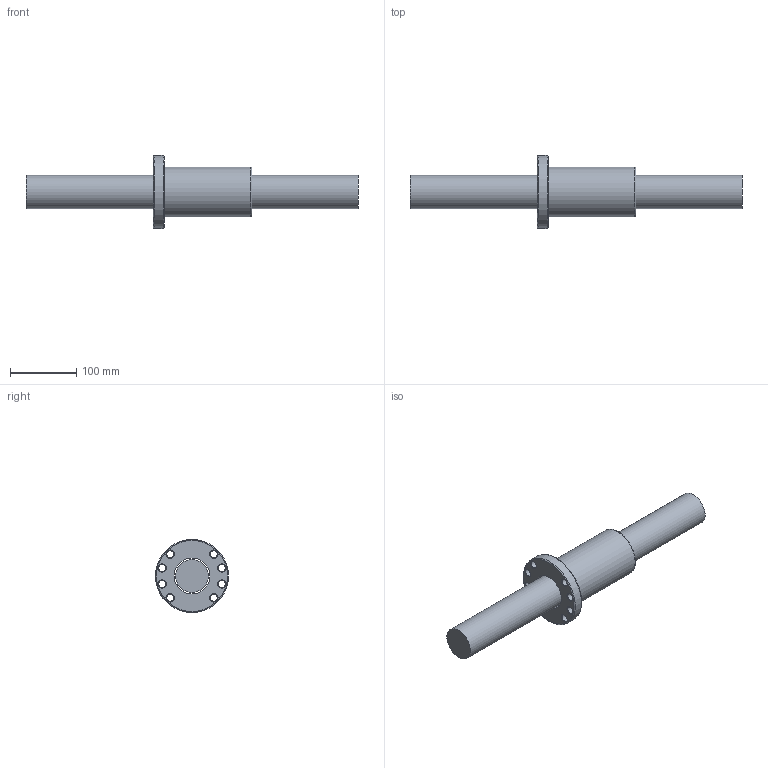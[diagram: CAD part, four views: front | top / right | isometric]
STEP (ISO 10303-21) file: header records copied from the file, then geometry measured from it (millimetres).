
FILE_DESCRIPTION (( 'STEP AP203' ), '1' );
FILE_NAME ('OFU05010N-4.step', '2024-05-15T05:32:57', ( '' ), ( '' ), 'SwSTEP 2.0', 'SolidWorks 2022', '' );
FILE_SCHEMA (( 'CONFIG_CONTROL_DESIGN' ));
Length unit declared in the file: millimetre
Products named in the file (1): OFU05010N-4
Bounding box: 500 x 110 x 110 mm (x, y, z)
Volume: 1363066.2 mm3; surface area: 161183.6 mm2
Topology: 2 solids, 2 shells, 51 faces, 133 edges, 87 vertices
Faces by surface type: cylinder 20, cone 17, plane 6, bspline 5, torus 3
Full cylindrical faces by diameter (mm): 4 x1, 7 x6, 11 x8, 50 x1, 54.1 x1, 75 x1, 110 x1
Entity records: 2913 total; most frequent: CARTESIAN_POINT 1992, DIRECTION 176, ORIENTED_EDGE 118, EDGE_LOOP 100, AXIS2_PLACEMENT_3D 86, FACE_OUTER_BOUND 62, EDGE_CURVE 59, VERTEX_POINT 55
